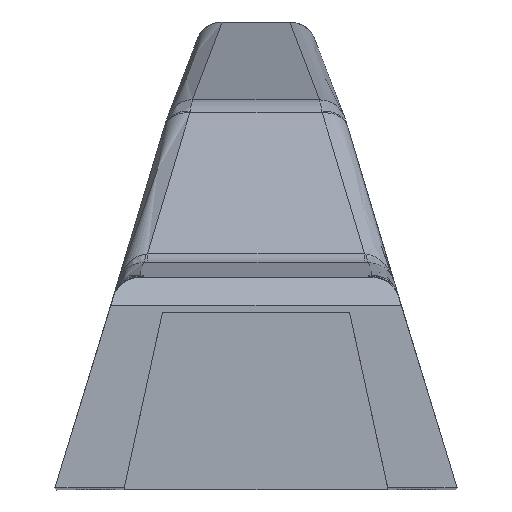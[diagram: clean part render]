
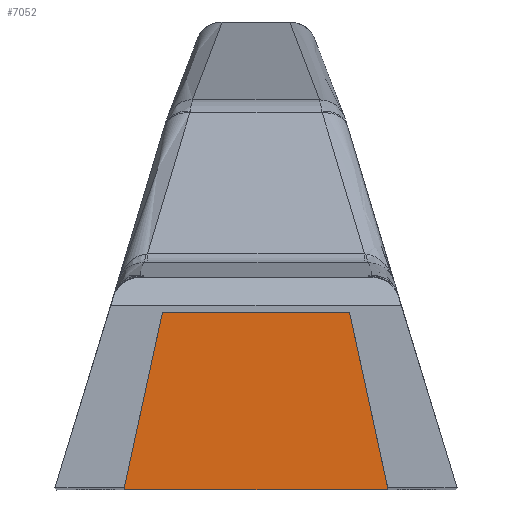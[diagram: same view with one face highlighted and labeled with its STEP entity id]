
A CAD part, front view. The second image highlights one B-rep face of the part: STEP entity #7052.
In plain terms, the highlighted planar face has unit normal (0, -1, 0).
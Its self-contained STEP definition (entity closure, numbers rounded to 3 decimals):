
#2179=CARTESIAN_POINT('',(9.876,226.8,44.904));
#2180=VERTEX_POINT('',#2179);
#2187=CARTESIAN_POINT('',(-9.876,226.8,44.904));
#2188=VERTEX_POINT('',#2187);
#2189=CARTESIAN_POINT('',(9.876,226.8,44.904));
#2190=DIRECTION('',(-1.,-0.,0.));
#2191=VECTOR('',#2190,19.753);
#2192=LINE('',#2189,#2191);
#2193=EDGE_CURVE('',#2180,#2188,#2192,.T.);
#6967=CARTESIAN_POINT('',(6.993,226.8,58.167));
#6968=VERTEX_POINT('',#6967);
#6975=CARTESIAN_POINT('',(6.993,226.8,58.167));
#6976=DIRECTION('',(0.212,-0.,-0.977));
#6977=VECTOR('',#6976,13.574);
#6978=LINE('',#6975,#6977);
#6979=EDGE_CURVE('',#6968,#2180,#6978,.T.);
#7015=CARTESIAN_POINT('',(-6.993,226.8,58.167));
#7016=VERTEX_POINT('',#7015);
#7017=CARTESIAN_POINT('',(-6.993,226.8,58.167));
#7018=DIRECTION('',(-0.212,0.,-0.977));
#7019=VECTOR('',#7018,13.574);
#7020=LINE('',#7017,#7019);
#7021=EDGE_CURVE('',#7016,#2188,#7020,.T.);
#7036=CARTESIAN_POINT('',(2.572,226.8,44.167));
#7037=DIRECTION('',(0.,-1.,0.));
#7038=DIRECTION('',(1.,0.,0.));
#7039=AXIS2_PLACEMENT_3D('',#7036,#7037,#7038);
#7040=PLANE('',#7039);
#7041=ORIENTED_EDGE('',*,*,#6979,.F.);
#7042=CARTESIAN_POINT('',(-6.993,226.8,58.167));
#7043=DIRECTION('',(1.,0.,-0.));
#7044=VECTOR('',#7043,13.986);
#7045=LINE('',#7042,#7044);
#7046=EDGE_CURVE('',#7016,#6968,#7045,.T.);
#7047=ORIENTED_EDGE('',*,*,#7046,.F.);
#7048=ORIENTED_EDGE('',*,*,#7021,.T.);
#7049=ORIENTED_EDGE('',*,*,#2193,.F.);
#7050=EDGE_LOOP('',(#7041,#7047,#7048,#7049));
#7051=FACE_BOUND('',#7050,.T.);
#7052=ADVANCED_FACE('',(#7051),#7040,.T.);
